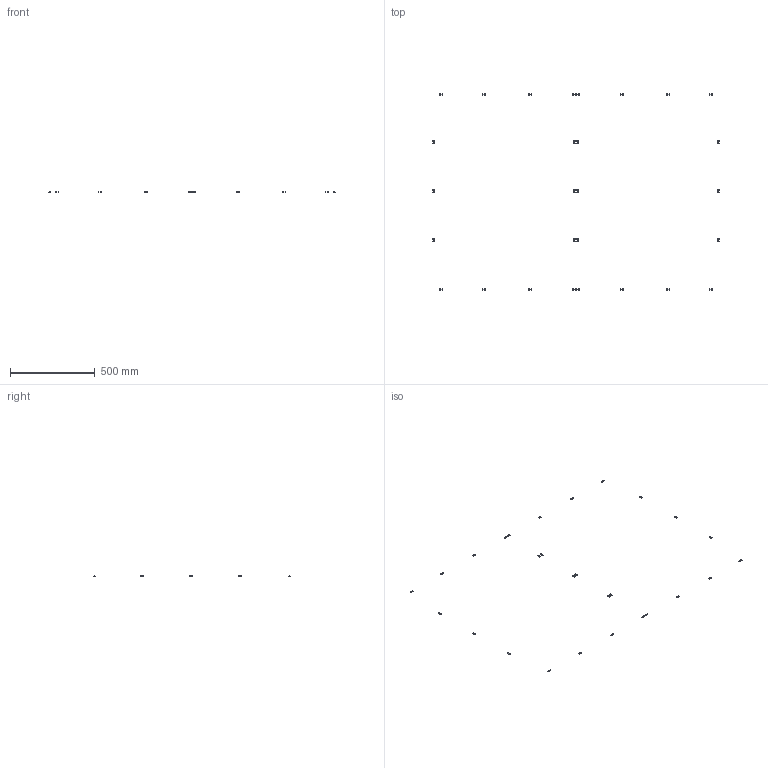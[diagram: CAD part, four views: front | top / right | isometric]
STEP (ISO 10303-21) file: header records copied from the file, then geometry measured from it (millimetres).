
FILE_DESCRIPTION(/* description */ (''),/* implementation_level */ '2;1');
FILE_NAME(/* name */ '14.frame-panels#14.1#HNTPZ5-5',/* time_stamp */ '2014-12-01T20:19:58+01:00',/* author */ (''),/* organization */ (''),/* preprocessor_version */ 'ST-DEVELOPER v14',/* originating_system */ '',/* authorisation */ '');
FILE_SCHEMA (('AUTOMOTIVE_DESIGN'));
Length unit declared in the file: millimetre
Products named in the file (2): Document; nut tslot, post, M5
Assembly tree (8 placements, depth 2):
  Document
    nut tslot, post, M5  x8
Bounding box: 1688.3 x 1158.3 x 3.8 mm (x, y, z)
Volume: 8820.6 mm3; surface area: 11746.7 mm2
Topology: 28 solids, 28 shells, 364 faces, 1008 edges, 672 vertices
Faces by surface type: plane 308, bspline 56
Entity records: 20097 total; most frequent: CARTESIAN_POINT 9587, B_SPLINE_CURVE_WITH_KNOTS 2100, ORIENTED_EDGE 1512, PCURVE 1512, DEFINITIONAL_REPRESENTATION 1512, SURFACE_CURVE 756, EDGE_CURVE 756, VERTEX_POINT 504
